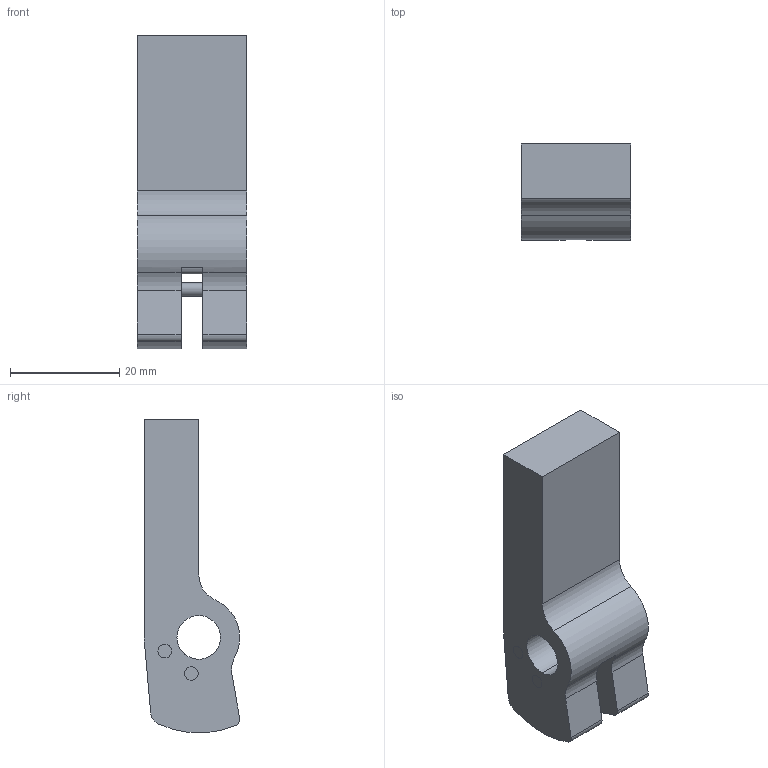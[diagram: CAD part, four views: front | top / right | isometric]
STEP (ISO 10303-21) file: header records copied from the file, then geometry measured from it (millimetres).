
FILE_DESCRIPTION (( 'STEP AP203' ), '1' );
FILE_NAME ('101336_Spannhebel Rohling.STEP', '2013-04-22T07:25:32', ( '' ), ( '' ), 'SwSTEP 2.0', 'SolidWorks 2010', '' );
FILE_SCHEMA (( 'CONFIG_CONTROL_DESIGN' ));
Length unit declared in the file: millimetre
Products named in the file (3): 101336_Spannhebel Rohling; 101336_Spannhebel-Rohling_Default; 101336_Stift
Assembly tree (3 placements, depth 2):
  101336_Spannhebel Rohling
    101336_Stift  x2
    101336_Spannhebel-Rohling_Default
Bounding box: 20 x 17.5 x 57.47 mm (x, y, z)
Volume: 12501.3 mm3; surface area: 5499.2 mm2
Topology: 3 solids, 3 shells, 40 faces, 114 edges, 76 vertices
Faces by surface type: cylinder 23, plane 17
Entity records: 1605 total; most frequent: DIRECTION 244, CARTESIAN_POINT 222, ORIENTED_EDGE 216, EDGE_CURVE 108, AXIS2_PLACEMENT_3D 94, VERTEX_POINT 72, VECTOR 56, LINE 56
